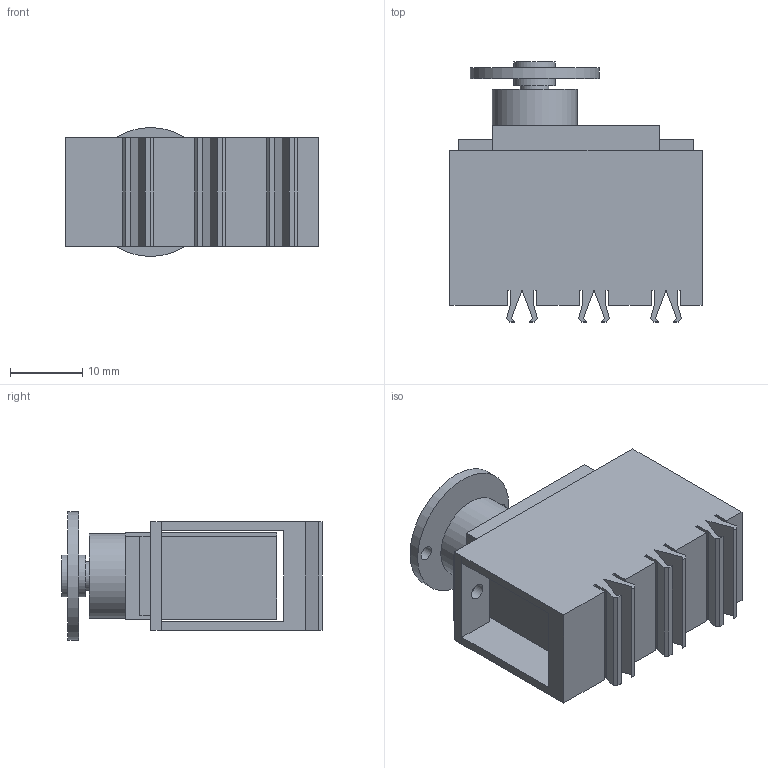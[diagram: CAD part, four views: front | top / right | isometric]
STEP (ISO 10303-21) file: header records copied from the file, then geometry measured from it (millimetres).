
FILE_DESCRIPTION(/* description */ (''),/* implementation_level */ '2;1');
FILE_NAME(/* name */ 'C:/Users/priba/Documents/Temp/Backup/mrm-ps1109hb Holder v6.step',/* time_stamp */ '2019-07-02T17:32:25+02:00',/* author */ (''),/* organization */ (''),/* preprocessor_version */ 'ST-DEVELOPER v18',/* originating_system */ 'Autodesk Translation Framework v8.2.0.1029',/* authorisation */ '');
FILE_SCHEMA (('AUTOMOTIVE_DESIGN { 1 0 10303 214 3 1 1 }'));
Length unit declared in the file: millimetre
Products named in the file (3): mrm-ps1109hb Holder; mrm-ps-1109hb; Horn
Assembly tree (2 placements, depth 3):
  mrm-ps1109hb Holder
    mrm-ps-1109hb
      Horn
Bounding box: 35 x 36.11 x 17.9 mm (x, y, z)
Volume: 10298.1 mm3; surface area: 8493.2 mm2
Topology: 4 solids, 4 shells, 111 faces, 303 edges, 200 vertices
Faces by surface type: plane 97, cylinder 14
Full cylindrical faces by diameter (mm): 2 x3, 2.25 x2, 2.5 x2, 4 x2, 4.1 x1, 5.8 x2, 11.8 x1, 17.9 x1
Entity records: 3573 total; most frequent: CARTESIAN_POINT 619, ORIENTED_EDGE 606, DIRECTION 565, EDGE_CURVE 303, LINE 273, VECTOR 273, VERTEX_POINT 200, AXIS2_PLACEMENT_3D 146
